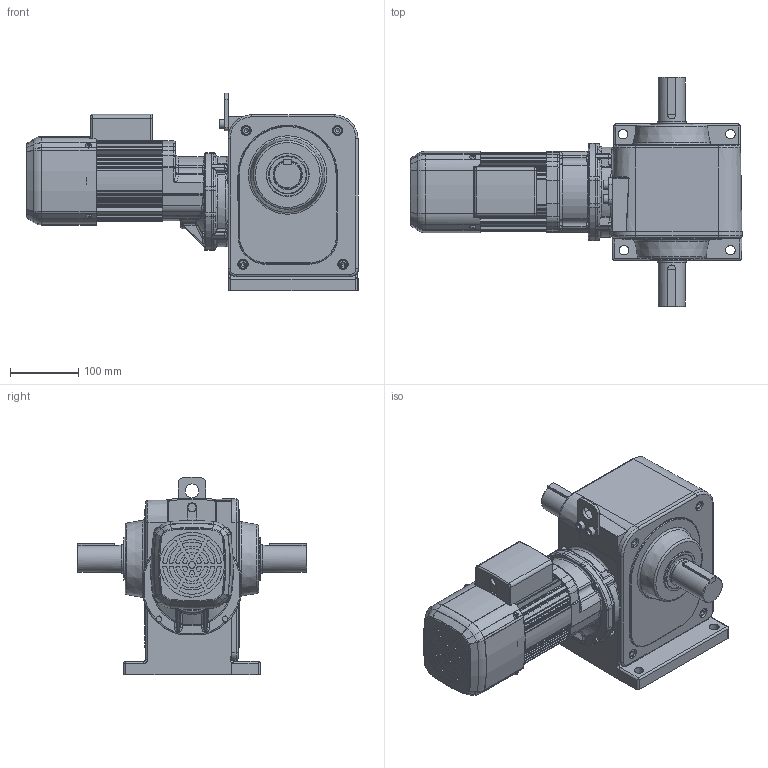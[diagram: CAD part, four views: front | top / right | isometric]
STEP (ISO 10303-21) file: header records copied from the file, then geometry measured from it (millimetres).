
FILE_DESCRIPTION( ( 'Unknown' ), '1' );
FILE_NAME( 'W:/gm/3D-WEB/GM-SHY/完成品/パーツ/完成品/三相/shybrt_04_300-480.stp', 'Unknown', ( 'Unknown' ), ( 'Unknown' ), 'PSStep 11.0', 'Unknown', ' ' );
FILE_SCHEMA( ( 'AUTOMOTIVE_DESIGN { 1 0 10303 214 1 1 1 1 }' ) );
Length unit declared in the file: millimetre
Products named in the file (2): P728241_抂巕敔蔬
Bounding box: 486.6 x 336 x 289.82 mm (x, y, z)
Volume: 9156573.6 mm3; surface area: 661728.1 mm2
Topology: 2 solids, 11 shells, 1610 faces, 4050 edges, 2518 vertices
Faces by surface type: cylinder 656, plane 602, torus 135, bspline 105, cone 97, sphere 15
Full cylindrical faces by diameter (mm): 3.3 x4, 4 x4, 4.134 x16, 4.5 x8, 4.8 x4, 5 x4, 6.647 x12, 8 x2, 10 x3, 12 x2, 13 x6, 14 x4, 15 x5, 16 x1, 20 x1, 40 x2, 42 x2, 45 x2, 55 x4, 63 x2, 94.886 x1, 112.5 x1, 125.5 x1, 125.6 x1
Entity records: 73691 total; most frequent: CARTESIAN_POINT 23172, DIRECTION 8129, ORIENTED_EDGE 7606, EDGE_CURVE 3803, AXIS2_PLACEMENT_3D 3202, VERTEX_POINT 2451, EDGE_LOOP 1866, LINE 1725
